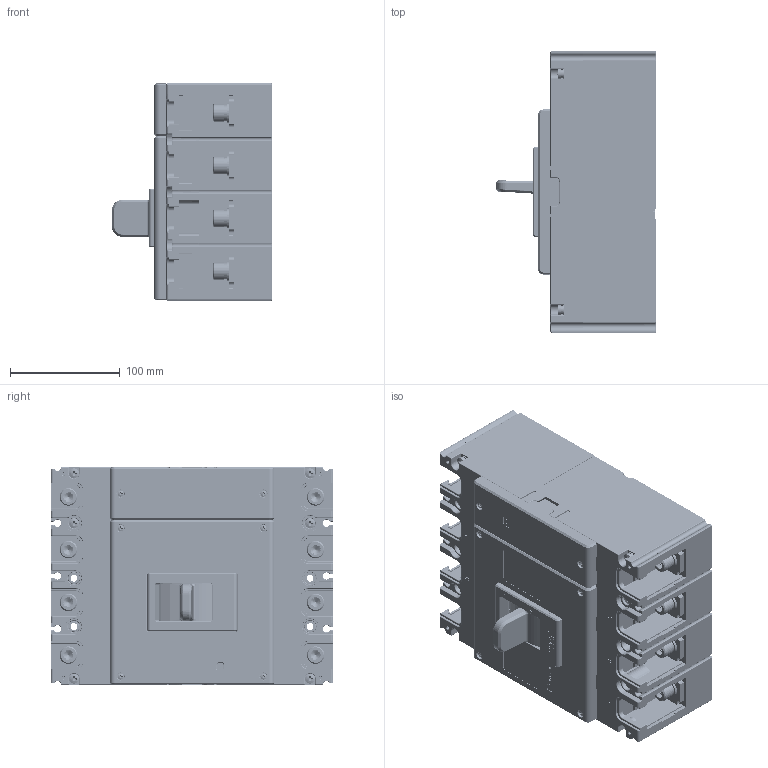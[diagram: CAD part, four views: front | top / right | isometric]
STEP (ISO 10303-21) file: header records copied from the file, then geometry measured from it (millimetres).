
FILE_DESCRIPTION((''),'2;1');
FILE_NAME('2253065700_ASM_ASM','2025-04-28T',('Administrator'),(''),'PRO/ENGINEER BY PARAMETRIC TECHNOLOGY CORPORATION, 2015440','PRO/ENGINEER BY PARAMETRIC TECHNOLOGY CORPORATION, 2015440','');
FILE_SCHEMA(('CONFIG_CONTROL_DESIGN'));
Products named in the file (51): JZ_5024058800_1; GB_T809-M5X16_1; 5024058800_ASM_1_ASM; 89400078R0_1; 85510339P01_1; 5DLX_551_722_ASM_1_ASM; 8420028500_1; 5551117200_AF0_ASM_1_ASM; 5551117200_AF3_ASM_1_ASM; 5551117200_AF4_ASM_1_ASM; 5551149200_ASM_1_ASM; 7010100507J_GB_T823_M4X12_1; 7090300401K_GB_T93_4_1; 7090200011_GB_T97_4_4_S_1; 5850007600_ASM_1_ASM; 8585064800_1; 85510339P02_1; 5DLX_510_127_ASM_1_ASM; 7010100505J_GB_T823_M4X10_1; 5850007500_ASM_1_ASM; 7030100512_GB_T9074_4_M5X45_1; 5295020500_ASM_1_ASM; 7010600505_GB_T70_1_M10X35_1; 7090300701K_GB_T93_10_1; GB_T97_4_10_1; 58500064C0_ASM_1_ASM; 8742105000_1; 8253057400_1; 8865077500_AF0_1; 8865077600_AF0_1; 5253021200_ASM_1_ASM; 8742103700_1; GZ_5315075200_1; GB_T809-M3X8_1; 5315075200_ASM_1_ASM; 8253076500_1; 8282201200_1; 5315076600_ASM_1_ASM; GB_T823-M5X35_1; 7090300501K_GB_T93_5_1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
Assembly tree (123 placements, depth 6):
  2253065700_ASM_ASM
    2253065700_ASM_1_ASM
      5295020500_ASM_1_ASM
        5024058800_ASM_1_ASM
          JZ_5024058800_1
          GB_T809-M5X16_1  x8
        89400078R0_1  x8
        5DLX_551_722_ASM_1_ASM  x3
          85510339P01_1
        5551149200_ASM_1_ASM
          5551117200_AF0_ASM_1_ASM
            8420028500_1
          5551117200_AF3_ASM_1_ASM
            8420028500_1
          5551117200_AF4_ASM_1_ASM
            8420028500_1
        5850007600_ASM_1_ASM  x19
          7010100507J_GB_T823_M4X12_1
          7090300401K_GB_T93_4_1
          7090200011_GB_T97_4_4_S_1
        5DLX_510_127_ASM_1_ASM
          8585064800_1
          85510339P02_1
        5850007500_ASM_1_ASM  x3
          7010100505J_GB_T823_M4X10_1
          7090300401K_GB_T93_4_1
          7090200011_GB_T97_4_4_S_1
        7030100512_GB_T9074_4_M5X45_1  x4
      58500064C0_ASM_1_ASM  x8
        7010600505_GB_T70_1_M10X35_1
        7090300701K_GB_T93_10_1
        GB_T97_4_10_1
      8742105000_1  x4
      5253021200_ASM_1_ASM
        8253057400_1
        8865077500_AF0_1
        8865077600_AF0_1
      8742103700_1  x4
      5315076600_ASM_1_ASM
        5315075200_ASM_1_ASM
          GZ_5315075200_1
          GB_T809-M3X8_1  x6
        8253076500_1
        8282201200_1
      5850007400_ASM_1_ASM  x8
        GB_T823-M5X35_1
        7090300501K_GB_T93_5_1
        GB_T97_4_5_1
      8315095700_1
      8315095800_1
      5850007700_ASM_1_ASM  x6
        7010100305R01_GB_T823_M3X10_1
        7090300201_GB_T93_3_1
        GB_T97_4_3_1
      8742155400_AF0_1
Bounding box: 145.91 x 257 x 198 mm (x, y, z)
Volume: 1874353.6 mm3; surface area: 940702 mm2
Topology: 184 solids, 274 shells, 11943 faces, 31160 edges, 19719 vertices
Faces by surface type: plane 6531, cylinder 3516, torus 596, cone 563, sphere 320, extrusion 221, bspline 196
Entity records: 311672 total; most frequent: CARTESIAN_POINT 73869, ORIENTED_EDGE 50026, DIRECTION 48855, EDGE_CURVE 25053, VECTOR 17313, LINE 17092, VERTEX_POINT 16045, AXIS2_PLACEMENT_3D 15771
